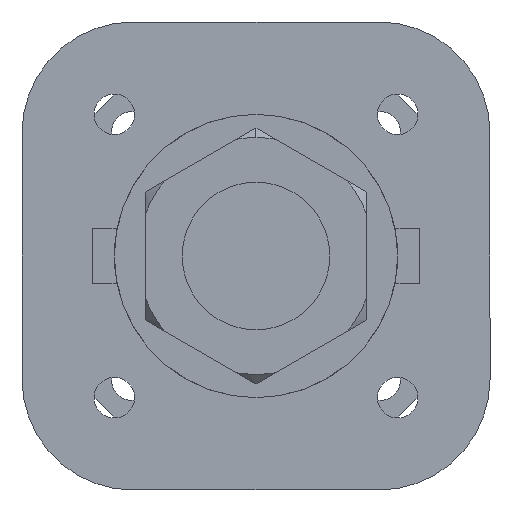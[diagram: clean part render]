
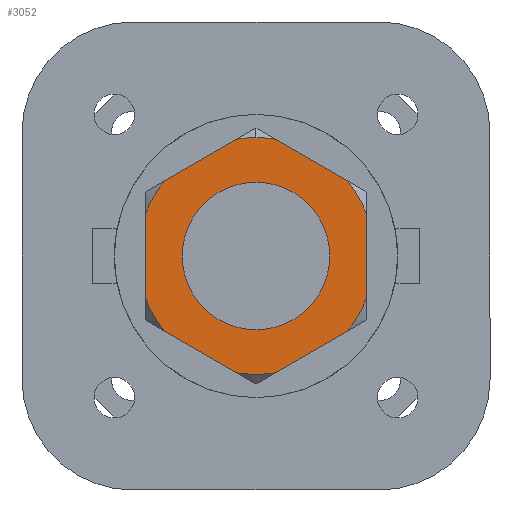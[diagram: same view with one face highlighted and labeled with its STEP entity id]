
A CAD part, front view. The second image highlights one B-rep face of the part: STEP entity #3052.
In plain terms, the highlighted planar face has unit normal (0, -1, 0).
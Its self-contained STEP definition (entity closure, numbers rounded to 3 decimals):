
#15 = DIRECTION ( 'NONE',  ( 0., -1., 0. ) ) ;
#66 = ORIENTED_EDGE ( 'NONE', *, *, #2488, .T. ) ;
#68 = DIRECTION ( 'NONE',  ( 0., 0., -1. ) ) ;
#91 = ORIENTED_EDGE ( 'NONE', *, *, #1360, .F. ) ;
#121 = DIRECTION ( 'NONE',  ( 0., -1., 0. ) ) ;
#123 = EDGE_CURVE ( 'NONE', #401, #734, #579, .T. ) ;
#137 = DIRECTION ( 'NONE',  ( 0., 0., -1. ) ) ;
#149 = LINE ( 'NONE', #3345, #880 ) ;
#155 = EDGE_CURVE ( 'NONE', #221, #1350, #3193, .T. ) ;
#221 = VERTEX_POINT ( 'NONE', #1590 ) ;
#333 = DIRECTION ( 'NONE',  ( -0.866, 0., 0.5 ) ) ;
#380 = AXIS2_PLACEMENT_3D ( 'NONE', #424, #2507, #3290 ) ;
#390 = DIRECTION ( 'NONE',  ( 0.866, 0., -0.5 ) ) ;
#401 = VERTEX_POINT ( 'NONE', #1123 ) ;
#424 = CARTESIAN_POINT ( 'NONE',  ( 0., -25.5, 0. ) ) ;
#425 = CARTESIAN_POINT ( 'NONE',  ( 1.576, -25.5, 9.482 ) ) ;
#426 = CARTESIAN_POINT ( 'NONE',  ( 9., -25.5, -5.196 ) ) ;
#435 = VERTEX_POINT ( 'NONE', #1208 ) ;
#446 = DIRECTION ( 'NONE',  ( 0., -1., 0. ) ) ;
#473 = ORIENTED_EDGE ( 'NONE', *, *, #3102, .T. ) ;
#483 = DIRECTION ( 'NONE',  ( 0., 0., -1. ) ) ;
#504 = VERTEX_POINT ( 'NONE', #701 ) ;
#517 = ORIENTED_EDGE ( 'NONE', *, *, #2693, .T. ) ;
#524 = VECTOR ( 'NONE', #1602, 1000. ) ;
#579 = CIRCLE ( 'NONE', #1019, 9.613 ) ;
#679 = VERTEX_POINT ( 'NONE', #3136 ) ;
#696 = EDGE_CURVE ( 'NONE', #435, #3298, #1084, .T. ) ;
#701 = CARTESIAN_POINT ( 'NONE',  ( -1.576, -25.5, -9.482 ) ) ;
#716 = FACE_OUTER_BOUND ( 'NONE', #1289, .T. ) ;
#721 = VECTOR ( 'NONE', #1470, 1000. ) ;
#723 = VERTEX_POINT ( 'NONE', #1135 ) ;
#732 = DIRECTION ( 'NONE',  ( 0., -1., 0. ) ) ;
#734 = VERTEX_POINT ( 'NONE', #1930 ) ;
#748 = CIRCLE ( 'NONE', #3422, 9.613 ) ;
#781 = CARTESIAN_POINT ( 'NONE',  ( 0., -25.5, 0. ) ) ;
#805 = EDGE_LOOP ( 'NONE', ( #91, #945 ) ) ;
#848 = DIRECTION ( 'NONE',  ( 0., -1., 0. ) ) ;
#865 = DIRECTION ( 'NONE',  ( 0., 0., -1. ) ) ;
#879 = DIRECTION ( 'NONE',  ( -0.866, 0., -0.5 ) ) ;
#880 = VECTOR ( 'NONE', #390, 1000. ) ;
#891 = AXIS2_PLACEMENT_3D ( 'NONE', #781, #15, #2645 ) ;
#945 = ORIENTED_EDGE ( 'NONE', *, *, #155, .F. ) ;
#1009 = CARTESIAN_POINT ( 'NONE',  ( 0., -25.5, 9.613 ) ) ;
#1012 = ORIENTED_EDGE ( 'NONE', *, *, #1190, .T. ) ;
#1019 = AXIS2_PLACEMENT_3D ( 'NONE', #1991, #1438, #137 ) ;
#1020 = VECTOR ( 'NONE', #333, 1000. ) ;
#1058 = CIRCLE ( 'NONE', #2500, 9.613 ) ;
#1084 = LINE ( 'NONE', #2957, #524 ) ;
#1123 = CARTESIAN_POINT ( 'NONE',  ( -9., -25.5, -3.376 ) ) ;
#1135 = CARTESIAN_POINT ( 'NONE',  ( -9., -25.5, 3.376 ) ) ;
#1138 = VECTOR ( 'NONE', #879, 1000. ) ;
#1190 = EDGE_CURVE ( 'NONE', #2705, #679, #748, .T. ) ;
#1208 = CARTESIAN_POINT ( 'NONE',  ( 1.576, -25.5, -9.482 ) ) ;
#1223 = VECTOR ( 'NONE', #2005, 1000. ) ;
#1281 = DIRECTION ( 'NONE',  ( 0., -1., 0. ) ) ;
#1289 = EDGE_LOOP ( 'NONE', ( #3149, #66, #3261, #1626, #473, #2955, #1012, #1999, #1660, #1370, #3211, #1500, #517 ) ) ;
#1327 = CARTESIAN_POINT ( 'NONE',  ( 0., -25.5, 0. ) ) ;
#1331 = DIRECTION ( 'NONE',  ( 0., 0., -1. ) ) ;
#1350 = VERTEX_POINT ( 'NONE', #3189 ) ;
#1356 = CIRCLE ( 'NONE', #1854, 9.613 ) ;
#1360 = EDGE_CURVE ( 'NONE', #1350, #221, #3277, .T. ) ;
#1370 = ORIENTED_EDGE ( 'NONE', *, *, #2924, .T. ) ;
#1414 = LINE ( 'NONE', #426, #721 ) ;
#1438 = DIRECTION ( 'NONE',  ( 0., -1., 0. ) ) ;
#1470 = DIRECTION ( 'NONE',  ( 0., 0., 1. ) ) ;
#1500 = ORIENTED_EDGE ( 'NONE', *, *, #1679, .T. ) ;
#1590 = CARTESIAN_POINT ( 'NONE',  ( 0., -25.5, -6. ) ) ;
#1599 = VERTEX_POINT ( 'NONE', #425 ) ;
#1602 = DIRECTION ( 'NONE',  ( 0.866, 0., 0.5 ) ) ;
#1604 = CIRCLE ( 'NONE', #891, 9.613 ) ;
#1626 = ORIENTED_EDGE ( 'NONE', *, *, #2021, .T. ) ;
#1660 = ORIENTED_EDGE ( 'NONE', *, *, #3159, .T. ) ;
#1679 = EDGE_CURVE ( 'NONE', #734, #504, #149, .T. ) ;
#1707 = LINE ( 'NONE', #3008, #1138 ) ;
#1744 = CARTESIAN_POINT ( 'NONE',  ( -9., -25.5, 5.196 ) ) ;
#1790 = EDGE_CURVE ( 'NONE', #2429, #3357, #1414, .T. ) ;
#1797 = CARTESIAN_POINT ( 'NONE',  ( 0., -25.5, 0. ) ) ;
#1832 = DIRECTION ( 'NONE',  ( 0., 0., -1. ) ) ;
#1854 = AXIS2_PLACEMENT_3D ( 'NONE', #1327, #848, #865 ) ;
#1911 = CIRCLE ( 'NONE', #380, 9.613 ) ;
#1930 = CARTESIAN_POINT ( 'NONE',  ( -7.424, -25.5, -6.106 ) ) ;
#1965 = CARTESIAN_POINT ( 'NONE',  ( 9., -25.5, 3.376 ) ) ;
#1979 = CARTESIAN_POINT ( 'NONE',  ( -7.424, -25.5, 6.106 ) ) ;
#1985 = CARTESIAN_POINT ( 'NONE',  ( 7.424, -25.5, -6.106 ) ) ;
#1991 = CARTESIAN_POINT ( 'NONE',  ( 0., -25.5, 0. ) ) ;
#1999 = ORIENTED_EDGE ( 'NONE', *, *, #3375, .T. ) ;
#2005 = DIRECTION ( 'NONE',  ( 0., 0., -1. ) ) ;
#2017 = DIRECTION ( 'NONE',  ( 0., 0., -1. ) ) ;
#2021 = EDGE_CURVE ( 'NONE', #3357, #3321, #1604, .T. ) ;
#2095 = CARTESIAN_POINT ( 'NONE',  ( 0., -25.5, 0. ) ) ;
#2206 = VERTEX_POINT ( 'NONE', #1979 ) ;
#2369 = LINE ( 'NONE', #2402, #1020 ) ;
#2383 = AXIS2_PLACEMENT_3D ( 'NONE', #2517, #446, #3036 ) ;
#2402 = CARTESIAN_POINT ( 'NONE',  ( 9., -25.5, 5.196 ) ) ;
#2425 = AXIS2_PLACEMENT_3D ( 'NONE', #2095, #3171, #1832 ) ;
#2427 = CARTESIAN_POINT ( 'NONE',  ( 9., -25.5, -3.376 ) ) ;
#2429 = VERTEX_POINT ( 'NONE', #2427 ) ;
#2488 = EDGE_CURVE ( 'NONE', #3298, #2429, #2614, .T. ) ;
#2500 = AXIS2_PLACEMENT_3D ( 'NONE', #2858, #1281, #483 ) ;
#2507 = DIRECTION ( 'NONE',  ( 0., -1., 0. ) ) ;
#2517 = CARTESIAN_POINT ( 'NONE',  ( 0., -25.5, 0. ) ) ;
#2603 = CARTESIAN_POINT ( 'NONE',  ( 0., -25.5, 0. ) ) ;
#2614 = CIRCLE ( 'NONE', #2383, 9.613 ) ;
#2645 = DIRECTION ( 'NONE',  ( 0., 0., -1. ) ) ;
#2693 = EDGE_CURVE ( 'NONE', #504, #435, #1058, .T. ) ;
#2705 = VERTEX_POINT ( 'NONE', #1009 ) ;
#2721 = AXIS2_PLACEMENT_3D ( 'NONE', #2603, #732, #2017 ) ;
#2725 = CARTESIAN_POINT ( 'NONE',  ( 0., -25.5, 0. ) ) ;
#2768 = CARTESIAN_POINT ( 'NONE',  ( 7.424, -25.5, 6.106 ) ) ;
#2858 = CARTESIAN_POINT ( 'NONE',  ( 0., -25.5, 0. ) ) ;
#2907 = DIRECTION ( 'NONE',  ( 0., -1., 0. ) ) ;
#2924 = EDGE_CURVE ( 'NONE', #723, #401, #3049, .T. ) ;
#2955 = ORIENTED_EDGE ( 'NONE', *, *, #3251, .T. ) ;
#2957 = CARTESIAN_POINT ( 'NONE',  ( 0., -25.5, -10.392 ) ) ;
#3008 = CARTESIAN_POINT ( 'NONE',  ( 0., -25.5, 10.392 ) ) ;
#3036 = DIRECTION ( 'NONE',  ( 0., 0., -1. ) ) ;
#3049 = LINE ( 'NONE', #1744, #1223 ) ;
#3052 = ADVANCED_FACE ( 'NONE', ( #3366, #716 ), #3435, .T. ) ;
#3102 = EDGE_CURVE ( 'NONE', #3321, #1599, #2369, .T. ) ;
#3136 = CARTESIAN_POINT ( 'NONE',  ( -1.576, -25.5, 9.482 ) ) ;
#3149 = ORIENTED_EDGE ( 'NONE', *, *, #696, .T. ) ;
#3159 = EDGE_CURVE ( 'NONE', #2206, #723, #1356, .T. ) ;
#3171 = DIRECTION ( 'NONE',  ( 0., -1., 0. ) ) ;
#3189 = CARTESIAN_POINT ( 'NONE',  ( 0., -25.5, 6. ) ) ;
#3193 = CIRCLE ( 'NONE', #3358, 6. ) ;
#3211 = ORIENTED_EDGE ( 'NONE', *, *, #123, .T. ) ;
#3251 = EDGE_CURVE ( 'NONE', #1599, #2705, #1911, .T. ) ;
#3261 = ORIENTED_EDGE ( 'NONE', *, *, #1790, .T. ) ;
#3277 = CIRCLE ( 'NONE', #2425, 6. ) ;
#3290 = DIRECTION ( 'NONE',  ( 0., 0., -1. ) ) ;
#3298 = VERTEX_POINT ( 'NONE', #1985 ) ;
#3321 = VERTEX_POINT ( 'NONE', #2768 ) ;
#3345 = CARTESIAN_POINT ( 'NONE',  ( -9., -25.5, -5.196 ) ) ;
#3357 = VERTEX_POINT ( 'NONE', #1965 ) ;
#3358 = AXIS2_PLACEMENT_3D ( 'NONE', #1797, #2907, #1331 ) ;
#3366 = FACE_BOUND ( 'NONE', #805, .T. ) ;
#3375 = EDGE_CURVE ( 'NONE', #679, #2206, #1707, .T. ) ;
#3422 = AXIS2_PLACEMENT_3D ( 'NONE', #2725, #121, #68 ) ;
#3435 = PLANE ( 'NONE',  #2721 ) ;
